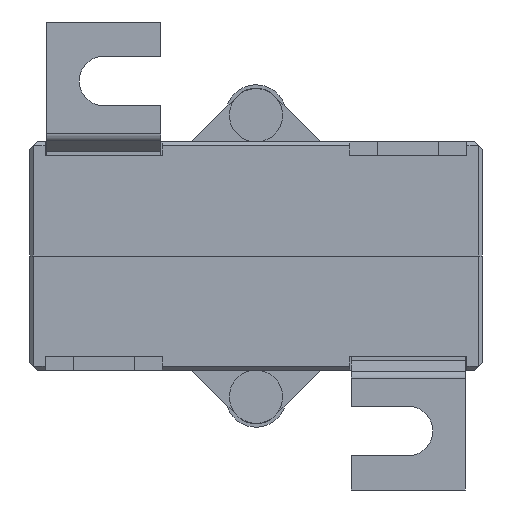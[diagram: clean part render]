
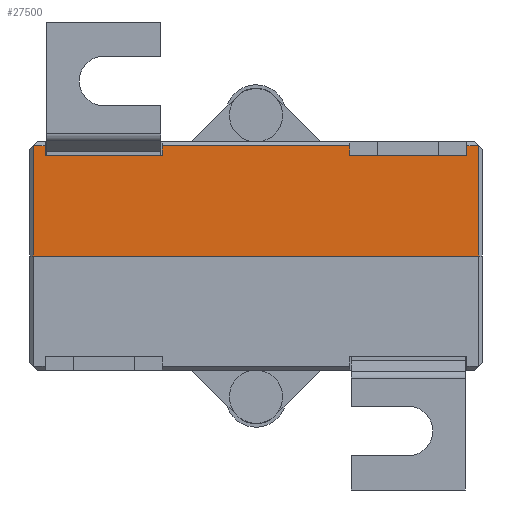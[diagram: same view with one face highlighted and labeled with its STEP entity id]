
A CAD part, front view. The second image highlights one B-rep face of the part: STEP entity #27500.
In plain terms, the highlighted planar face has unit normal (0, -1, 0).
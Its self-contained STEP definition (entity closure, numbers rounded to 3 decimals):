
#1547=PLANE('',#29353);
#2554=FACE_OUTER_BOUND('',#4079,.T.);
#4079=EDGE_LOOP('',(#19256,#19257,#19258,#19259,#19260,#19261,#19262,#19263,
#19264,#19265,#19266,#19267));
#6071=LINE('',#37016,#9108);
#6084=LINE('',#37042,#9121);
#6132=LINE('',#37174,#9169);
#6134=LINE('',#37178,#9171);
#6139=LINE('',#37188,#9176);
#6140=LINE('',#37190,#9177);
#6141=LINE('',#37192,#9178);
#6142=LINE('',#37194,#9179);
#6143=LINE('',#37195,#9180);
#6144=LINE('',#37197,#9181);
#6145=LINE('',#37199,#9182);
#6146=LINE('',#37200,#9183);
#9108=VECTOR('',#30986,10.);
#9121=VECTOR('',#31005,10.);
#9169=VECTOR('',#31093,10.);
#9171=VECTOR('',#31097,10.);
#9176=VECTOR('',#31104,10.);
#9177=VECTOR('',#31105,10.);
#9178=VECTOR('',#31106,10.);
#9179=VECTOR('',#31107,10.);
#9180=VECTOR('',#31108,10.);
#9181=VECTOR('',#31109,10.);
#9182=VECTOR('',#31110,10.);
#9183=VECTOR('',#31111,10.);
#12162=VERTEX_POINT('',#37013);
#12163=VERTEX_POINT('',#37015);
#12173=VERTEX_POINT('',#37041);
#12236=VERTEX_POINT('',#37171);
#12237=VERTEX_POINT('',#37173);
#12238=VERTEX_POINT('',#37177);
#12242=VERTEX_POINT('',#37187);
#12243=VERTEX_POINT('',#37189);
#12244=VERTEX_POINT('',#37191);
#12245=VERTEX_POINT('',#37193);
#12246=VERTEX_POINT('',#37196);
#12247=VERTEX_POINT('',#37198);
#14937=EDGE_CURVE('',#12162,#12163,#6071,.T.);
#14950=EDGE_CURVE('',#12163,#12173,#6084,.T.);
#15016=EDGE_CURVE('',#12236,#12237,#6132,.T.);
#15018=EDGE_CURVE('',#12238,#12237,#6134,.T.);
#15023=EDGE_CURVE('',#12242,#12162,#6139,.T.);
#15024=EDGE_CURVE('',#12243,#12242,#6140,.T.);
#15025=EDGE_CURVE('',#12244,#12243,#6141,.T.);
#15026=EDGE_CURVE('',#12244,#12245,#6142,.T.);
#15027=EDGE_CURVE('',#12245,#12238,#6143,.T.);
#15028=EDGE_CURVE('',#12236,#12246,#6144,.T.);
#15029=EDGE_CURVE('',#12246,#12247,#6145,.T.);
#15030=EDGE_CURVE('',#12247,#12173,#6146,.T.);
#19256=ORIENTED_EDGE('',*,*,#14937,.F.);
#19257=ORIENTED_EDGE('',*,*,#15023,.F.);
#19258=ORIENTED_EDGE('',*,*,#15024,.F.);
#19259=ORIENTED_EDGE('',*,*,#15025,.F.);
#19260=ORIENTED_EDGE('',*,*,#15026,.T.);
#19261=ORIENTED_EDGE('',*,*,#15027,.T.);
#19262=ORIENTED_EDGE('',*,*,#15018,.T.);
#19263=ORIENTED_EDGE('',*,*,#15016,.F.);
#19264=ORIENTED_EDGE('',*,*,#15028,.T.);
#19265=ORIENTED_EDGE('',*,*,#15029,.T.);
#19266=ORIENTED_EDGE('',*,*,#15030,.T.);
#19267=ORIENTED_EDGE('',*,*,#14950,.F.);
#27500=ADVANCED_FACE('',(#2554),#1547,.T.);
#29353=AXIS2_PLACEMENT_3D('',#37186,#31102,#31103);
#30986=DIRECTION('',(0.,0.,-1.));
#31005=DIRECTION('',(-1.,0.,0.));
#31093=DIRECTION('',(-1.,0.,0.));
#31097=DIRECTION('',(0.,0.,-1.));
#31102=DIRECTION('center_axis',(0.,-1.,0.));
#31103=DIRECTION('ref_axis',(1.,0.,0.));
#31104=DIRECTION('',(1.,0.,0.));
#31105=DIRECTION('',(0.,0.,1.));
#31106=DIRECTION('',(-1.,0.,0.));
#31107=DIRECTION('',(0.,0.,1.));
#31108=DIRECTION('',(1.,0.,0.));
#31109=DIRECTION('',(0.,0.,1.));
#31110=DIRECTION('',(1.,0.,0.));
#31111=DIRECTION('',(0.,0.,-1.));
#37013=CARTESIAN_POINT('',(29.25,0.,15.));
#37015=CARTESIAN_POINT('',(29.25,0.,0.5));
#37016=CARTESIAN_POINT('',(29.25,0.,0.));
#37041=CARTESIAN_POINT('',(27.7,0.,0.5));
#37042=CARTESIAN_POINT('',(-14.875,0.,0.5));
#37171=CARTESIAN_POINT('',(12.3,0.,0.5));
#37173=CARTESIAN_POINT('',(-12.3,0.,0.5));
#37174=CARTESIAN_POINT('',(-14.875,0.,0.5));
#37177=CARTESIAN_POINT('',(-12.3,0.,1.8));
#37178=CARTESIAN_POINT('',(-12.3,0.,0.));
#37186=CARTESIAN_POINT('Origin',(-29.75,0.,0.));
#37187=CARTESIAN_POINT('',(-29.25,0.,15.));
#37188=CARTESIAN_POINT('',(-29.75,0.,15.));
#37189=CARTESIAN_POINT('',(-29.25,0.,0.5));
#37190=CARTESIAN_POINT('',(-29.25,0.,0.));
#37191=CARTESIAN_POINT('',(-27.7,0.,0.5));
#37192=CARTESIAN_POINT('',(-14.875,0.,0.5));
#37193=CARTESIAN_POINT('',(-27.7,0.,1.8));
#37194=CARTESIAN_POINT('',(-27.7,0.,0.));
#37195=CARTESIAN_POINT('',(-24.875,0.,1.8));
#37196=CARTESIAN_POINT('',(12.3,0.,1.8));
#37197=CARTESIAN_POINT('',(12.3,0.,0.));
#37198=CARTESIAN_POINT('',(27.7,0.,1.8));
#37199=CARTESIAN_POINT('',(-4.875,0.,1.8));
#37200=CARTESIAN_POINT('',(27.7,0.,0.));
